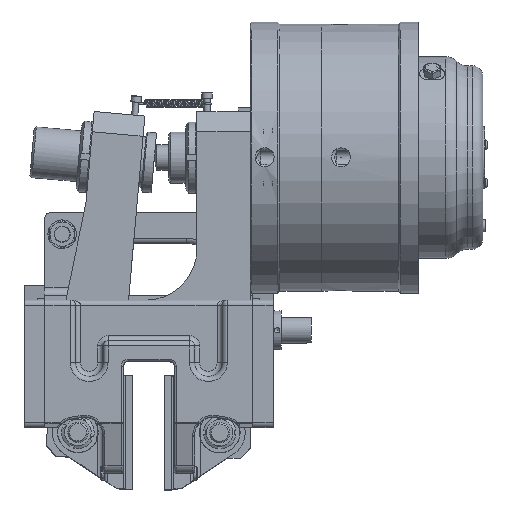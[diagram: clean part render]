
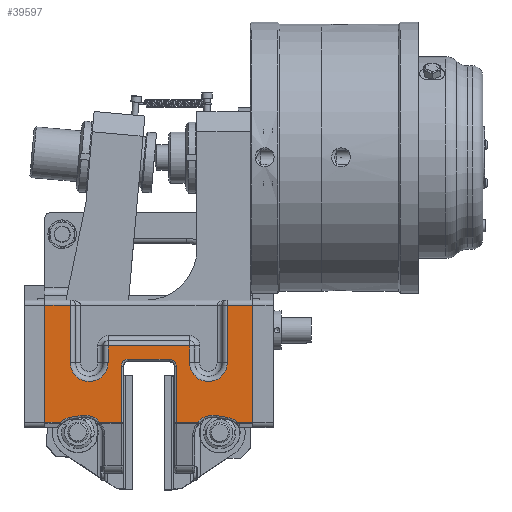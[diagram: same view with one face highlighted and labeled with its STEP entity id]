
A CAD part, top view. The second image highlights one B-rep face of the part: STEP entity #39597.
In plain terms, the highlighted planar face has unit normal (0, 0, 1).
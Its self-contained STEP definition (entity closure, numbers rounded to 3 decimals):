
#5267=LINE('',#65409,#7805);
#5269=LINE('',#65426,#7807);
#5272=LINE('',#65438,#7810);
#5274=LINE('',#65448,#7812);
#5276=LINE('',#65457,#7814);
#5277=LINE('',#65460,#7815);
#5279=LINE('',#65471,#7817);
#5306=LINE('',#65721,#7844);
#5307=LINE('',#65729,#7845);
#5308=LINE('',#65737,#7846);
#5314=LINE('',#65772,#7852);
#5315=LINE('',#65780,#7853);
#5319=LINE('',#65845,#7857);
#5331=LINE('',#65934,#7869);
#5332=LINE('',#65940,#7870);
#5333=LINE('',#65942,#7871);
#5334=LINE('',#65944,#7872);
#5335=LINE('',#65945,#7873);
#7805=VECTOR('',#50877,5.);
#7807=VECTOR('',#50897,10.);
#7810=VECTOR('',#50912,10.);
#7812=VECTOR('',#50924,10.);
#7814=VECTOR('',#50932,5.);
#7815=VECTOR('',#50935,10.);
#7817=VECTOR('',#50949,10.);
#7844=VECTOR('',#51078,10.);
#7845=VECTOR('',#51089,10.);
#7846=VECTOR('',#51100,10.);
#7852=VECTOR('',#51136,10.);
#7853=VECTOR('',#51139,10.);
#7857=VECTOR('',#51177,10.);
#7869=VECTOR('',#51213,10.);
#7870=VECTOR('',#51218,10.);
#7871=VECTOR('',#51221,10.);
#7872=VECTOR('',#51222,10.);
#7873=VECTOR('',#51223,10.);
#10198=FACE_OUTER_BOUND('',#12538,.T.);
#12538=EDGE_LOOP('',(#31683,#31684,#31685,#31686,#31687,#31688,#31689,#31690,
#31691,#31692,#31693,#31694,#31695,#31696,#31697,#31698,#31699,#31700,#31701,
#31702,#31703,#31704,#31705,#31706,#31707,#31708));
#14997=CIRCLE('',#42911,18.5);
#15006=CIRCLE('',#42926,18.5);
#15033=CIRCLE('',#42983,7.);
#15036=CIRCLE('',#42988,7.);
#15053=CIRCLE('',#43021,20.);
#15056=CIRCLE('',#43026,18.);
#15060=CIRCLE('',#43037,18.);
#15061=CIRCLE('',#43038,20.);
#18236=VERTEX_POINT('',#65406);
#18237=VERTEX_POINT('',#65408);
#18239=VERTEX_POINT('',#65414);
#18243=VERTEX_POINT('',#65425);
#18245=VERTEX_POINT('',#65431);
#18247=VERTEX_POINT('',#65440);
#18250=VERTEX_POINT('',#65450);
#18253=VERTEX_POINT('',#65455);
#18254=VERTEX_POINT('',#65459);
#18256=VERTEX_POINT('',#65465);
#18274=VERTEX_POINT('',#65716);
#18275=VERTEX_POINT('',#65720);
#18276=VERTEX_POINT('',#65724);
#18277=VERTEX_POINT('',#65728);
#18278=VERTEX_POINT('',#65732);
#18279=VERTEX_POINT('',#65736);
#18288=VERTEX_POINT('',#65765);
#18289=VERTEX_POINT('',#65770);
#18290=VERTEX_POINT('',#65774);
#18294=VERTEX_POINT('',#65839);
#18295=VERTEX_POINT('',#65843);
#18304=VERTEX_POINT('',#65929);
#18305=VERTEX_POINT('',#65936);
#18306=VERTEX_POINT('',#65937);
#18307=VERTEX_POINT('',#65939);
#18308=VERTEX_POINT('',#65943);
#23049=EDGE_CURVE('',#18236,#18237,#5267,.T.);
#23057=EDGE_CURVE('',#18237,#18243,#5269,.T.);
#23060=EDGE_CURVE('',#18243,#18245,#14997,.T.);
#23064=EDGE_CURVE('',#18245,#18239,#5272,.T.);
#23069=EDGE_CURVE('',#18239,#18247,#5274,.T.);
#23073=EDGE_CURVE('',#18253,#18250,#5276,.T.);
#23074=EDGE_CURVE('',#18247,#18254,#5277,.T.);
#23077=EDGE_CURVE('',#18254,#18256,#15006,.T.);
#23080=EDGE_CURVE('',#18256,#18253,#5279,.T.);
#23132=EDGE_CURVE('',#18274,#18275,#5306,.T.);
#23134=EDGE_CURVE('',#18275,#18276,#15033,.T.);
#23136=EDGE_CURVE('',#18276,#18277,#5307,.T.);
#23138=EDGE_CURVE('',#18277,#18278,#15036,.T.);
#23140=EDGE_CURVE('',#18278,#18279,#5308,.T.);
#23156=EDGE_CURVE('',#18289,#18288,#5314,.T.);
#23158=EDGE_CURVE('',#18290,#18274,#5315,.T.);
#23170=EDGE_CURVE('',#18294,#18290,#15053,.T.);
#23172=EDGE_CURVE('',#18295,#18294,#5319,.T.);
#23174=EDGE_CURVE('',#18288,#18295,#15056,.T.);
#23192=EDGE_CURVE('',#18279,#18304,#5331,.T.);
#23193=EDGE_CURVE('',#18305,#18306,#15060,.T.);
#23194=EDGE_CURVE('',#18307,#18305,#5332,.T.);
#23195=EDGE_CURVE('',#18304,#18307,#15061,.T.);
#23196=EDGE_CURVE('',#18289,#18250,#5333,.T.);
#23197=EDGE_CURVE('',#18236,#18308,#5334,.T.);
#23198=EDGE_CURVE('',#18306,#18308,#5335,.T.);
#31683=ORIENTED_EDGE('',*,*,#23193,.F.);
#31684=ORIENTED_EDGE('',*,*,#23194,.F.);
#31685=ORIENTED_EDGE('',*,*,#23195,.F.);
#31686=ORIENTED_EDGE('',*,*,#23192,.F.);
#31687=ORIENTED_EDGE('',*,*,#23140,.F.);
#31688=ORIENTED_EDGE('',*,*,#23138,.F.);
#31689=ORIENTED_EDGE('',*,*,#23136,.F.);
#31690=ORIENTED_EDGE('',*,*,#23134,.F.);
#31691=ORIENTED_EDGE('',*,*,#23132,.F.);
#31692=ORIENTED_EDGE('',*,*,#23158,.F.);
#31693=ORIENTED_EDGE('',*,*,#23170,.F.);
#31694=ORIENTED_EDGE('',*,*,#23172,.F.);
#31695=ORIENTED_EDGE('',*,*,#23174,.F.);
#31696=ORIENTED_EDGE('',*,*,#23156,.F.);
#31697=ORIENTED_EDGE('',*,*,#23196,.T.);
#31698=ORIENTED_EDGE('',*,*,#23073,.F.);
#31699=ORIENTED_EDGE('',*,*,#23080,.F.);
#31700=ORIENTED_EDGE('',*,*,#23077,.F.);
#31701=ORIENTED_EDGE('',*,*,#23074,.F.);
#31702=ORIENTED_EDGE('',*,*,#23069,.F.);
#31703=ORIENTED_EDGE('',*,*,#23064,.F.);
#31704=ORIENTED_EDGE('',*,*,#23060,.F.);
#31705=ORIENTED_EDGE('',*,*,#23057,.F.);
#31706=ORIENTED_EDGE('',*,*,#23049,.F.);
#31707=ORIENTED_EDGE('',*,*,#23197,.T.);
#31708=ORIENTED_EDGE('',*,*,#23198,.F.);
#37906=PLANE('',#43036);
#39597=ADVANCED_FACE('',(#10198),#37906,.T.);
#42911=AXIS2_PLACEMENT_3D('',#65432,#50903,#50904);
#42926=AXIS2_PLACEMENT_3D('',#65466,#50941,#50942);
#42983=AXIS2_PLACEMENT_3D('',#65725,#51083,#51084);
#42988=AXIS2_PLACEMENT_3D('',#65733,#51094,#51095);
#43021=AXIS2_PLACEMENT_3D('',#65841,#51171,#51172);
#43026=AXIS2_PLACEMENT_3D('',#65848,#51182,#51183);
#43036=AXIS2_PLACEMENT_3D('',#65935,#51214,#51215);
#43037=AXIS2_PLACEMENT_3D('',#65938,#51216,#51217);
#43038=AXIS2_PLACEMENT_3D('',#65941,#51219,#51220);
#50877=DIRECTION('',(1.,0.,0.));
#50897=DIRECTION('',(0.,-1.,0.));
#50903=DIRECTION('center_axis',(0.,0.,
1.));
#50904=DIRECTION('ref_axis',(0.,-1.,0.));
#50912=DIRECTION('',(0.,1.,0.));
#50924=DIRECTION('',(1.,0.,0.));
#50932=DIRECTION('',(1.,0.,0.));
#50935=DIRECTION('',(0.,-1.,0.));
#50941=DIRECTION('center_axis',(0.,0.,
1.));
#50942=DIRECTION('ref_axis',(0.,-1.,0.));
#50949=DIRECTION('',(0.,1.,0.));
#51078=DIRECTION('',(0.,1.,0.));
#51083=DIRECTION('center_axis',(0.,0.,
1.));
#51084=DIRECTION('ref_axis',(0.707,0.707,0.));
#51089=DIRECTION('',(-1.,0.,0.));
#51094=DIRECTION('center_axis',(0.,0.,
1.));
#51095=DIRECTION('ref_axis',(-0.707,0.707,0.));
#51100=DIRECTION('',(0.,-1.,0.));
#51136=DIRECTION('',(-1.,0.,0.));
#51139=DIRECTION('',(-1.,0.,0.));
#51171=DIRECTION('center_axis',(0.,0.,
1.));
#51172=DIRECTION('ref_axis',(-0.29,0.957,0.));
#51177=DIRECTION('',(-0.985,0.174,0.));
#51182=DIRECTION('center_axis',(0.,0.,
1.));
#51183=DIRECTION('ref_axis',(0.388,0.922,0.));
#51213=DIRECTION('',(-1.,0.,0.));
#51214=DIRECTION('center_axis',(0.,0.,
1.));
#51215=DIRECTION('ref_axis',(1.,0.,0.));
#51216=DIRECTION('center_axis',(0.,0.,
1.));
#51217=DIRECTION('ref_axis',(-0.388,0.922,0.));
#51218=DIRECTION('',(-0.985,-0.174,0.));
#51219=DIRECTION('center_axis',(0.,0.,
1.));
#51220=DIRECTION('ref_axis',(0.29,0.957,0.));
#51221=DIRECTION('',(0.,1.,0.));
#51222=DIRECTION('',(0.,-1.,0.));
#51223=DIRECTION('',(-1.,0.,0.));
#65406=CARTESIAN_POINT('',(-102.,165.,285.));
#65408=CARTESIAN_POINT('',(-77.,165.,285.));
#65409=CARTESIAN_POINT('',(102.,165.,285.));
#65414=CARTESIAN_POINT('',(-40.,125.,285.));
#65425=CARTESIAN_POINT('',(-77.,108.5,285.));
#65426=CARTESIAN_POINT('',(-77.,99.315,285.));
#65431=CARTESIAN_POINT('',(-40.,108.5,285.));
#65432=CARTESIAN_POINT('Origin',(-58.5,108.5,285.));
#65438=CARTESIAN_POINT('',(-40.,107.565,285.));
#65440=CARTESIAN_POINT('',(40.,125.,285.));
#65448=CARTESIAN_POINT('',(20.,125.,285.));
#65450=CARTESIAN_POINT('',(102.,165.,285.));
#65455=CARTESIAN_POINT('',(77.,165.,285.));
#65457=CARTESIAN_POINT('',(0.,165.,285.));
#65459=CARTESIAN_POINT('',(40.,108.5,285.));
#65460=CARTESIAN_POINT('',(40.,99.315,285.));
#65465=CARTESIAN_POINT('',(77.,108.5,285.));
#65466=CARTESIAN_POINT('Origin',(58.5,108.5,285.));
#65471=CARTESIAN_POINT('',(77.,127.565,285.));
#65716=CARTESIAN_POINT('',(27.,50.,285.));
#65720=CARTESIAN_POINT('',(27.,105.,285.));
#65721=CARTESIAN_POINT('',(27.,97.565,285.));
#65724=CARTESIAN_POINT('',(20.,112.,285.));
#65725=CARTESIAN_POINT('Origin',(20.,105.,285.));
#65728=CARTESIAN_POINT('',(-20.,112.,285.));
#65729=CARTESIAN_POINT('',(-10.,112.,285.));
#65732=CARTESIAN_POINT('',(-27.,105.,285.));
#65733=CARTESIAN_POINT('Origin',(-20.,105.,285.));
#65736=CARTESIAN_POINT('',(-27.,50.,285.));
#65737=CARTESIAN_POINT('',(-27.,45.065,285.));
#65765=CARTESIAN_POINT('',(86.95,50.,285.));
#65770=CARTESIAN_POINT('',(102.,50.,285.));
#65772=CARTESIAN_POINT('',(-102.,50.,285.));
#65774=CARTESIAN_POINT('',(47.801,50.,285.));
#65780=CARTESIAN_POINT('',(-102.,50.,285.));
#65839=CARTESIAN_POINT('',(66.478,56.695,285.));
#65841=CARTESIAN_POINT('Origin',(63.,37.,285.));
#65843=CARTESIAN_POINT('',(77.63,54.726,285.));
#65845=CARTESIAN_POINT('',(31.381,62.893,285.));
#65848=CARTESIAN_POINT('Origin',(74.5,37.,285.));
#65929=CARTESIAN_POINT('',(-47.801,50.,285.));
#65934=CARTESIAN_POINT('',(-102.,50.,285.));
#65935=CARTESIAN_POINT('Origin',(0.,90.129,285.));
#65936=CARTESIAN_POINT('',(-77.63,54.726,285.));
#65937=CARTESIAN_POINT('',(-86.95,50.,285.));
#65938=CARTESIAN_POINT('Origin',(-74.5,37.,285.));
#65939=CARTESIAN_POINT('',(-66.478,56.695,285.));
#65940=CARTESIAN_POINT('',(-36.958,61.909,285.));
#65941=CARTESIAN_POINT('Origin',(-63.,37.,285.));
#65942=CARTESIAN_POINT('',(102.,170.,285.));
#65943=CARTESIAN_POINT('',(-102.,50.,285.));
#65944=CARTESIAN_POINT('',(-102.,45.,285.));
#65945=CARTESIAN_POINT('',(-102.,50.,285.));
